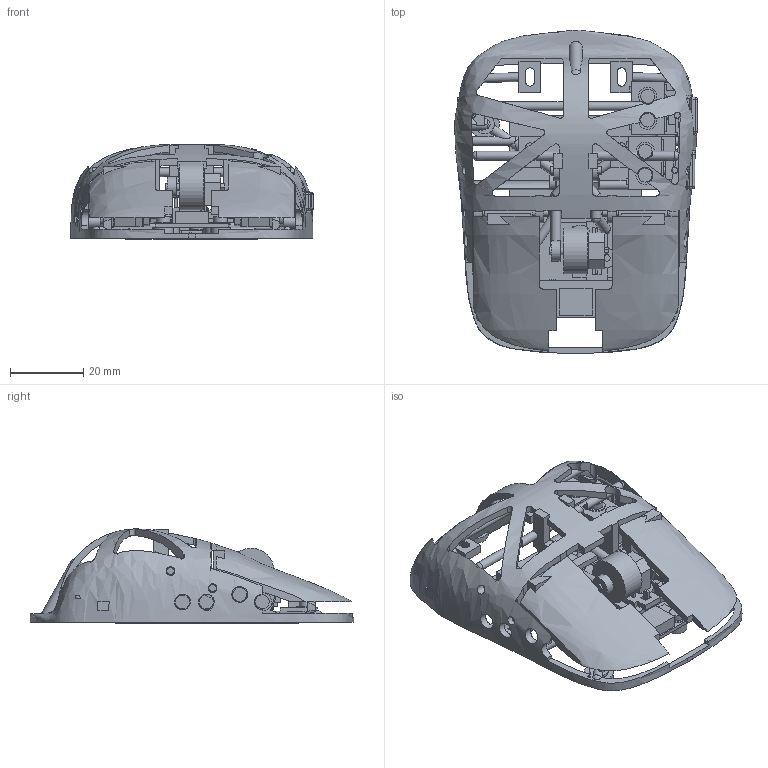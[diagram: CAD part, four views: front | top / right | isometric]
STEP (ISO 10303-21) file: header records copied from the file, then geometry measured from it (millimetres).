
FILE_DESCRIPTION(('Open CASCADE Model'),'2;1');
FILE_NAME('Open CASCADE Shape Model','2026-10-17T02:25:15',('Author'),( 'Open CASCADE'),'Open CASCADE STEP processor 7.9','Open CASCADE 7.9' ,'Unknown');
FILE_SCHEMA(('AUTOMOTIVE_DESIGN { 1 0 10303 214 1 1 1 1 }'));
Length unit declared in the file: millimetre
Products named in the file (74): R3_1_ATK_UNMEASURED_BLOCKED_DIAGNOSTIC; BODY; LEFT_KEY; RIGHT_KEY; SIDE_FRONT_KEY; SIDE_FRONT_KEY_SWITCH_CLAMP; SIDE_REAR_KEY; SIDE_REAR_KEY_SWITCH_CLAMP; WHEEL; WHEEL_CARRIER; LEFT_KEY_STEEL_PIN; LEFT_KEY_M2_SWITCH_1_BOLT; LEFT_KEY_M2_SWITCH_1_WASHER_NUT; LEFT_KEY_M2_SWITCH_1_WASHER_HEAD; LEFT_KEY_M2_SWITCH_1_NUT; LEFT_KEY_M2_SWITCH_2_BOLT; LEFT_KEY_M2_SWITCH_2_WASHER_NUT; LEFT_KEY_M2_SWITCH_2_WASHER_HEAD; LEFT_KEY_M2_SWITCH_2_NUT; SWITCH_LEFT; RIGHT_KEY_STEEL_PIN; RIGHT_KEY_M2_SWITCH_1_BOLT; RIGHT_KEY_M2_SWITCH_1_WASHER_NUT; RIGHT_KEY_M2_SWITCH_1_WASHER_HEAD; RIGHT_KEY_M2_SWITCH_1_NUT; RIGHT_KEY_M2_SWITCH_2_BOLT; RIGHT_KEY_M2_SWITCH_2_WASHER_NUT; RIGHT_KEY_M2_SWITCH_2_WASHER_HEAD; RIGHT_KEY_M2_SWITCH_2_NUT; SWITCH_RIGHT; SIDE_FRONT_KEY_CAPTURE_PIN; SIDE_FRONT_KEY_M2_SWITCH_1_BOLT; SIDE_FRONT_KEY_M2_SWITCH_1_WASHER_NUT; SIDE_FRONT_KEY_M2_SWITCH_1_WASHER_HEAD; SIDE_FRONT_KEY_M2_SWITCH_1_NUT; SIDE_FRONT_KEY_M2_SWITCH_2_BOLT; SIDE_FRONT_KEY_M2_SWITCH_2_WASHER_NUT; SIDE_FRONT_KEY_M2_SWITCH_2_WASHER_HEAD; SIDE_FRONT_KEY_M2_SWITCH_2_NUT; SWITCH_SIDE_FRONT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
Assembly tree (73 placements, depth 2):
  R3_1_ATK_UNMEASURED_BLOCKED_DIAGNOSTIC
    BODY
    LEFT_KEY
    RIGHT_KEY
    SIDE_FRONT_KEY
    SIDE_FRONT_KEY_SWITCH_CLAMP
    SIDE_REAR_KEY
    SIDE_REAR_KEY_SWITCH_CLAMP
    WHEEL
    WHEEL_CARRIER
    LEFT_KEY_STEEL_PIN
    LEFT_KEY_M2_SWITCH_1_BOLT
    LEFT_KEY_M2_SWITCH_1_WASHER_NUT
    LEFT_KEY_M2_SWITCH_1_WASHER_HEAD
    LEFT_KEY_M2_SWITCH_1_NUT
    LEFT_KEY_M2_SWITCH_2_BOLT
    LEFT_KEY_M2_SWITCH_2_WASHER_NUT
    LEFT_KEY_M2_SWITCH_2_WASHER_HEAD
    LEFT_KEY_M2_SWITCH_2_NUT
    SWITCH_LEFT
    RIGHT_KEY_STEEL_PIN
    RIGHT_KEY_M2_SWITCH_1_BOLT
    RIGHT_KEY_M2_SWITCH_1_WASHER_NUT
    RIGHT_KEY_M2_SWITCH_1_WASHER_HEAD
    RIGHT_KEY_M2_SWITCH_1_NUT
    RIGHT_KEY_M2_SWITCH_2_BOLT
    RIGHT_KEY_M2_SWITCH_2_WASHER_NUT
    RIGHT_KEY_M2_SWITCH_2_WASHER_HEAD
    RIGHT_KEY_M2_SWITCH_2_NUT
    SWITCH_RIGHT
    SIDE_FRONT_KEY_CAPTURE_PIN
    SIDE_FRONT_KEY_M2_SWITCH_1_BOLT
    SIDE_FRONT_KEY_M2_SWITCH_1_WASHER_NUT
    SIDE_FRONT_KEY_M2_SWITCH_1_WASHER_HEAD
    SIDE_FRONT_KEY_M2_SWITCH_1_NUT
    SIDE_FRONT_KEY_M2_SWITCH_2_BOLT
    SIDE_FRONT_KEY_M2_SWITCH_2_WASHER_NUT
    SIDE_FRONT_KEY_M2_SWITCH_2_WASHER_HEAD
    SIDE_FRONT_KEY_M2_SWITCH_2_NUT
    SWITCH_SIDE_FRONT
    SIDE_REAR_KEY_CAPTURE_PIN
    SIDE_REAR_KEY_M2_SWITCH_1_BOLT
    SIDE_REAR_KEY_M2_SWITCH_1_WASHER_NUT
    SIDE_REAR_KEY_M2_SWITCH_1_WASHER_HEAD
    SIDE_REAR_KEY_M2_SWITCH_1_NUT
    SIDE_REAR_KEY_M2_SWITCH_2_BOLT
    SIDE_REAR_KEY_M2_SWITCH_2_WASHER_NUT
    SIDE_REAR_KEY_M2_SWITCH_2_WASHER_HEAD
    SIDE_REAR_KEY_M2_SWITCH_2_NUT
    SWITCH_SIDE_REAR
    ENCODER_EC10E_HOUSING
    ENCODER_EC10E_ROTOR
    WHEEL_CARRIER_STEEL_PIN
    SWITCH_MIDDLE
    WHEEL_M2_SWITCH_1_BOLT
    WHEEL_M2_SWITCH_1_WASHER_NUT
    WHEEL_M2_SWITCH_1_WASHER_HEAD
    WHEEL_M2_SWITCH_1_NUT
    WHEEL_M2_SWITCH_2_BOLT
    WHEEL_M2_SWITCH_2_WASHER_NUT
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Bounding box: 66.18 x 88.24 x 25.68 mm (x, y, z)
Volume: 25621.5 mm3; surface area: 36729.1 mm2
Topology: 73 solids, 73 shells, 1561 faces, 4179 edges, 2723 vertices
Faces by surface type: plane 1109, cylinder 374, sphere 68, bspline 10
Full cylindrical faces by diameter (mm): 1.25 x6, 1.5 x2, 1.7 x6, 1.72 x2, 2 x40, 2.2 x24, 2.3 x2, 2.35 x13, 2.4 x30, 2.5 x3, 2.6 x11, 2.7 x7, 2.98 x1, 3.2 x3, 3.8 x14, 4.2 x2, 4.3 x3, 5 x22, 5.2 x4, 5.3 x2, 12.5 x1
Entity records: 284760 total; most frequent: CARTESIAN_POINT 203378, DIRECTION 13930, LINE 8400, VECTOR 8400, ORIENTED_EDGE 8272, PCURVE 8272, DEFINITIONAL_REPRESENTATION 8272, EDGE_CURVE 4136
